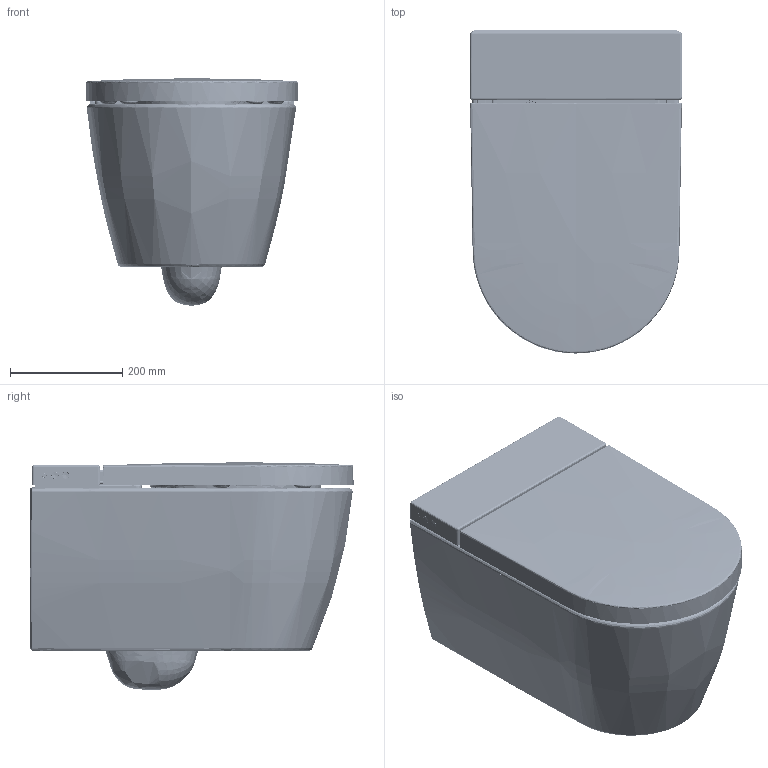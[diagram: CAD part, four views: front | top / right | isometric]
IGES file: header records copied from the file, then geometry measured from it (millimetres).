
Global section: file name: d:\users\matthias.isele\Desktop\planungsdaten_erstellen\SensoWash\SensoWash_Strack_f\650000_650001\3D\a.igs; native system: Rhinoceros ( Sep 13 2016 ); preprocessor: Trout Lake IGES 012 Sep 13 2016; date: 190809.123602; units: millimetre
Bounding box: 377.52 x 576.04 x 405.33 mm (x, y, z)
Surface area: 2740283.5 mm2 (no closed solid volume)
Topology: 0 solids, 0 shells, 9403 faces, 58878 edges, 58787 vertices
Faces by surface type: bspline 9403
